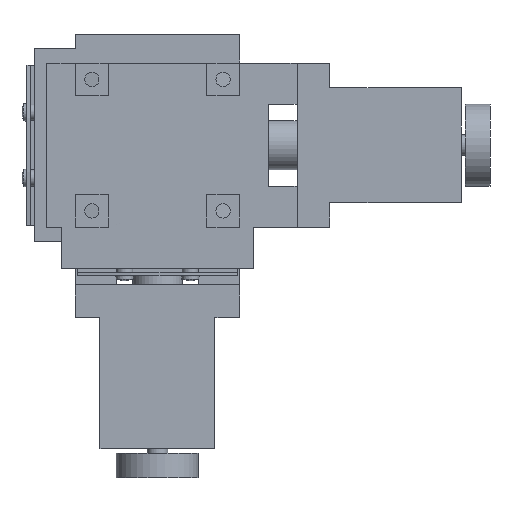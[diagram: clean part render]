
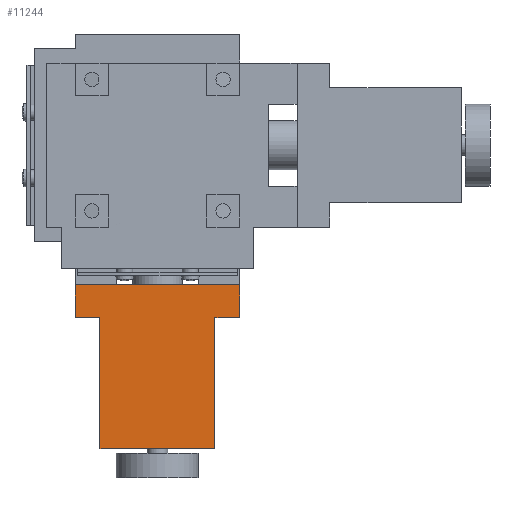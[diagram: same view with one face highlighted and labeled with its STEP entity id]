
A CAD part, front view. The second image highlights one B-rep face of the part: STEP entity #11244.
In plain terms, the highlighted planar face has unit normal (0, -1, 0) as drawn and (0, 0, -1) by its records, which use the part's own axes.
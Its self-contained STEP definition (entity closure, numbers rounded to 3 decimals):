
#60 = LINE ( 'NONE', #270, #9140 ) ;
#166 = DIRECTION ( 'NONE',  ( 0., -1., 0. ) ) ;
#270 = CARTESIAN_POINT ( 'NONE',  ( 20., 42., 4. ) ) ;
#665 = VECTOR ( 'NONE', #5539, 1000. ) ;
#711 = LINE ( 'NONE', #11939, #5092 ) ;
#954 = LINE ( 'NONE', #12341, #13454 ) ;
#1200 = PLANE ( 'NONE',  #6325 ) ;
#1243 = DIRECTION ( 'NONE',  ( 0., -1., 0. ) ) ;
#1374 = CARTESIAN_POINT ( 'NONE',  ( -14., 42., 4. ) ) ;
#2718 = DIRECTION ( 'NONE',  ( 1., 0., 0. ) ) ;
#2770 = EDGE_CURVE ( 'NONE', #9759, #11252, #12774, .T. ) ;
#2995 = VECTOR ( 'NONE', #13204, 1000. ) ;
#3042 = VERTEX_POINT ( 'NONE', #10009 ) ;
#3724 = CARTESIAN_POINT ( 'NONE',  ( 14., 74., 4. ) ) ;
#3903 = EDGE_CURVE ( 'NONE', #12121, #14644, #13679, .T. ) ;
#3910 = LINE ( 'NONE', #5682, #665 ) ;
#4315 = VERTEX_POINT ( 'NONE', #6830 ) ;
#4765 = LINE ( 'NONE', #8529, #13250 ) ;
#4771 = DIRECTION ( 'NONE',  ( -1., 0., 0. ) ) ;
#5092 = VECTOR ( 'NONE', #4771, 1000. ) ;
#5539 = DIRECTION ( 'NONE',  ( 0., -1., 0. ) ) ;
#5682 = CARTESIAN_POINT ( 'NONE',  ( 14., 74., 4. ) ) ;
#5882 = DIRECTION ( 'NONE',  ( -1., 0., 0. ) ) ;
#6325 = AXIS2_PLACEMENT_3D ( 'NONE', #8420, #12096, #13320 ) ;
#6335 = VECTOR ( 'NONE', #5882, 1000. ) ;
#6439 = EDGE_LOOP ( 'NONE', ( #6964, #14073, #11342, #11225, #14305, #11698, #13782, #14535 ) ) ;
#6830 = CARTESIAN_POINT ( 'NONE',  ( 20., 42., 4. ) ) ;
#6964 = ORIENTED_EDGE ( 'NONE', *, *, #2770, .T. ) ;
#6997 = EDGE_CURVE ( 'NONE', #12121, #7997, #954, .T. ) ;
#7095 = DIRECTION ( 'NONE',  ( 0., -1., 0. ) ) ;
#7251 = CARTESIAN_POINT ( 'NONE',  ( -20., 34., 4. ) ) ;
#7312 = FACE_OUTER_BOUND ( 'NONE', #6439, .T. ) ;
#7431 = EDGE_CURVE ( 'NONE', #3042, #11252, #4765, .T. ) ;
#7802 = VERTEX_POINT ( 'NONE', #15315 ) ;
#7997 = VERTEX_POINT ( 'NONE', #3724 ) ;
#8420 = CARTESIAN_POINT ( 'NONE',  ( 20., 42., 4. ) ) ;
#8529 = CARTESIAN_POINT ( 'NONE',  ( -20., 42., 4. ) ) ;
#9140 = VECTOR ( 'NONE', #166, 1000. ) ;
#9596 = CARTESIAN_POINT ( 'NONE',  ( -14., 74., 4. ) ) ;
#9759 = VERTEX_POINT ( 'NONE', #10301 ) ;
#10009 = CARTESIAN_POINT ( 'NONE',  ( -20., 42., 4. ) ) ;
#10045 = EDGE_CURVE ( 'NONE', #14644, #3042, #711, .T. ) ;
#10106 = EDGE_CURVE ( 'NONE', #4315, #7802, #13575, .T. ) ;
#10301 = CARTESIAN_POINT ( 'NONE',  ( 20., 34., 4. ) ) ;
#10731 = CARTESIAN_POINT ( 'NONE',  ( 20., 34., 4. ) ) ;
#11225 = ORIENTED_EDGE ( 'NONE', *, *, #3903, .F. ) ;
#11244 = ADVANCED_FACE ( 'NONE', ( #7312 ), #1200, .F. ) ;
#11252 = VERTEX_POINT ( 'NONE', #7251 ) ;
#11342 = ORIENTED_EDGE ( 'NONE', *, *, #10045, .F. ) ;
#11490 = EDGE_CURVE ( 'NONE', #7997, #7802, #3910, .T. ) ;
#11698 = ORIENTED_EDGE ( 'NONE', *, *, #11490, .T. ) ;
#11939 = CARTESIAN_POINT ( 'NONE',  ( 20., 42., 4. ) ) ;
#11994 = CARTESIAN_POINT ( 'NONE',  ( 20., 42., 4. ) ) ;
#12096 = DIRECTION ( 'NONE',  ( 0., 0., 1. ) ) ;
#12121 = VERTEX_POINT ( 'NONE', #14653 ) ;
#12341 = CARTESIAN_POINT ( 'NONE',  ( -14., 74., 4. ) ) ;
#12774 = LINE ( 'NONE', #10731, #6335 ) ;
#13204 = DIRECTION ( 'NONE',  ( -1., 0., 0. ) ) ;
#13250 = VECTOR ( 'NONE', #7095, 1000. ) ;
#13306 = VECTOR ( 'NONE', #1243, 1000. ) ;
#13320 = DIRECTION ( 'NONE',  ( 0., 1., 0. ) ) ;
#13454 = VECTOR ( 'NONE', #2718, 1000. ) ;
#13575 = LINE ( 'NONE', #11994, #2995 ) ;
#13679 = LINE ( 'NONE', #9596, #13306 ) ;
#13782 = ORIENTED_EDGE ( 'NONE', *, *, #10106, .F. ) ;
#14073 = ORIENTED_EDGE ( 'NONE', *, *, #7431, .F. ) ;
#14305 = ORIENTED_EDGE ( 'NONE', *, *, #6997, .T. ) ;
#14523 = EDGE_CURVE ( 'NONE', #4315, #9759, #60, .T. ) ;
#14535 = ORIENTED_EDGE ( 'NONE', *, *, #14523, .T. ) ;
#14644 = VERTEX_POINT ( 'NONE', #1374 ) ;
#14653 = CARTESIAN_POINT ( 'NONE',  ( -14., 74., 4. ) ) ;
#15315 = CARTESIAN_POINT ( 'NONE',  ( 14., 42., 4. ) ) ;
